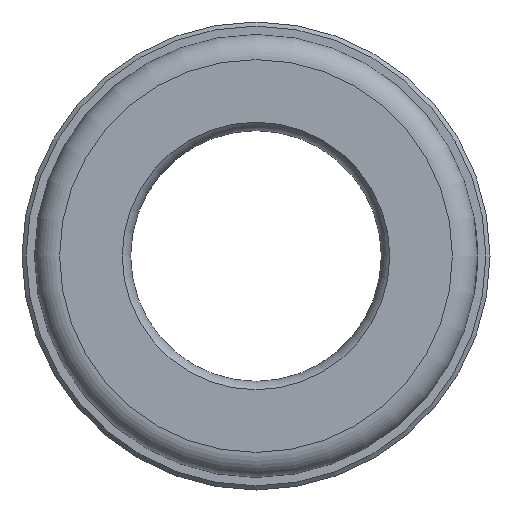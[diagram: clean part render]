
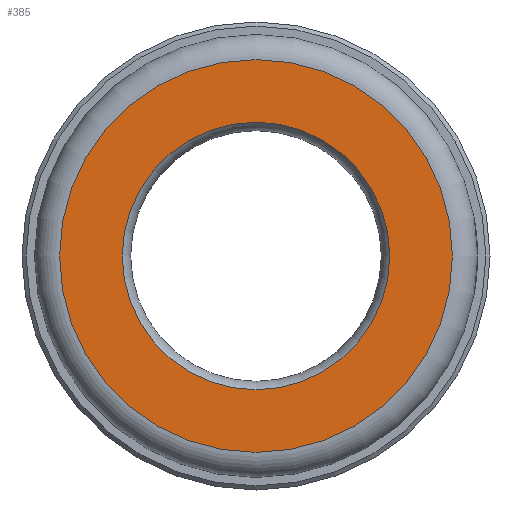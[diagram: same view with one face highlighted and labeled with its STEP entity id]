
A CAD part, left-side view. The second image highlights one B-rep face of the part: STEP entity #385.
In plain terms, the highlighted planar face has unit normal (-1, 0, 0).
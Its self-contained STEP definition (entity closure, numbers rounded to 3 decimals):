
#20=FACE_BOUND('',#87,.T.);
#24=PLANE('',#439);
#36=CIRCLE('',#436,23.5);
#38=CIRCLE('',#440,16.);
#63=FACE_OUTER_BOUND('',#86,.T.);
#86=EDGE_LOOP('',(#270));
#87=EDGE_LOOP('',(#271));
#163=VERTEX_POINT('',#689);
#165=VERTEX_POINT('',#698);
#199=EDGE_CURVE('',#163,#163,#36,.T.);
#203=EDGE_CURVE('',#165,#165,#38,.T.);
#270=ORIENTED_EDGE('',*,*,#199,.F.);
#271=ORIENTED_EDGE('',*,*,#203,.T.);
#385=ADVANCED_FACE('',(#63,#20),#24,.T.);
#436=AXIS2_PLACEMENT_3D('',#691,#502,#503);
#439=AXIS2_PLACEMENT_3D('',#697,#510,#511);
#440=AXIS2_PLACEMENT_3D('',#699,#512,#513);
#502=DIRECTION('center_axis',(1.,0.,0.));
#503=DIRECTION('ref_axis',(0.,-1.,0.));
#510=DIRECTION('center_axis',(-1.,0.,0.));
#511=DIRECTION('ref_axis',(0.,0.,1.));
#512=DIRECTION('center_axis',(1.,0.,0.));
#513=DIRECTION('ref_axis',(0.,0.,-1.));
#689=CARTESIAN_POINT('',(0.,0.,23.5));
#691=CARTESIAN_POINT('Origin',(0.,0.,0.));
#697=CARTESIAN_POINT('Origin',(0.,26.5,0.));
#698=CARTESIAN_POINT('',(0.,-16.,0.));
#699=CARTESIAN_POINT('Origin',(0.,0.,0.));
